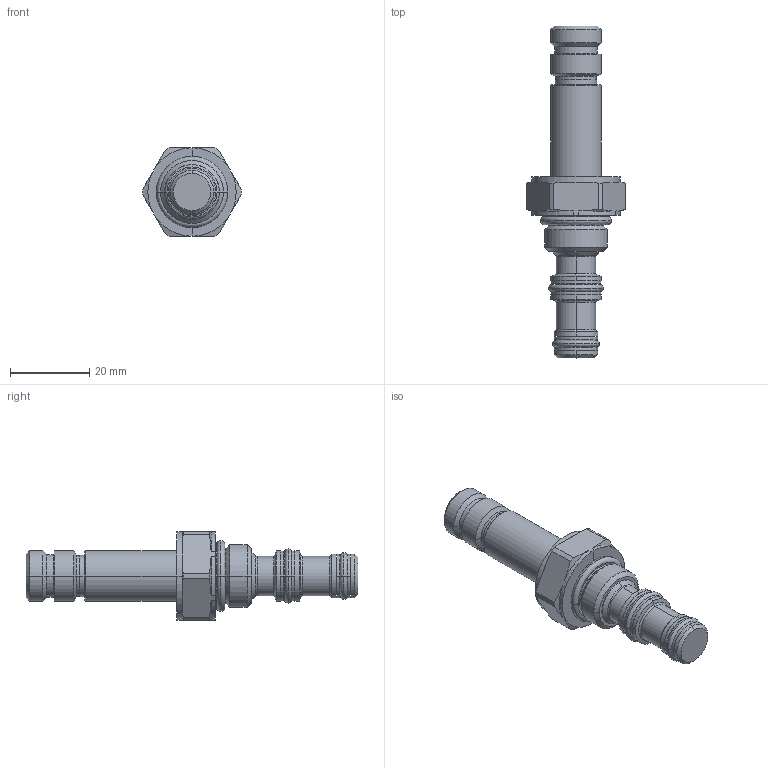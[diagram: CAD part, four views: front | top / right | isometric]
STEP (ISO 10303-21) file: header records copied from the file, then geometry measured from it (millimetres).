
FILE_DESCRIPTION((''),'2;1');
FILE_NAME('5003700_SW0002','2009-02-24T',('JCS'),(''),'PRO/ENGINEER BY PARAMETRIC TECHNOLOGY CORPORATION, 2008010','PRO/ENGINEER BY PARAMETRIC TECHNOLOGY CORPORATION, 2008010','');
FILE_SCHEMA(('CONFIG_CONTROL_DESIGN'));
Length unit declared in the file: inch
Products named in the file (1): 5003700_SW0002
Bounding box: 24.93 x 83.57 x 22.19 mm (x, y, z)
Volume: 12879.6 mm3; surface area: 5972.1 mm2
Topology: 4 solids, 4 shells, 190 faces, 420 edges, 248 vertices
Faces by surface type: cylinder 64, cone 42, plane 30, torus 30, revolution 24
Entity records: 5790 total; most frequent: CARTESIAN_POINT 1472, DIRECTION 966, ORIENTED_EDGE 840, EDGE_CURVE 420, AXIS2_PLACEMENT_3D 412, VERTEX_POINT 248, CIRCLE 246, EDGE_LOOP 206
